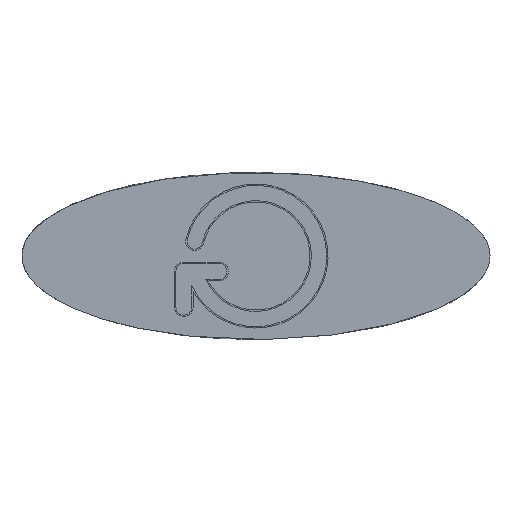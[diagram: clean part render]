
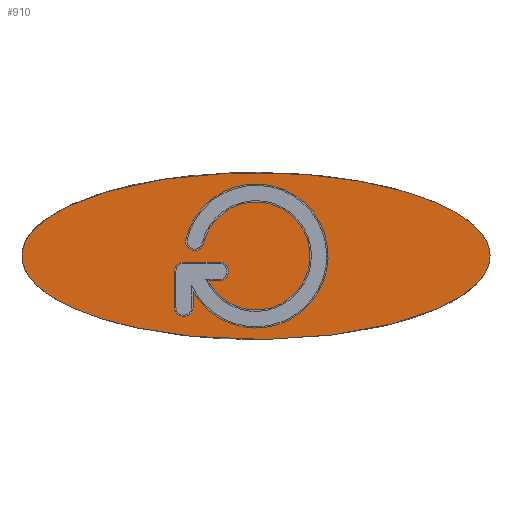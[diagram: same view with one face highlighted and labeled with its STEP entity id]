
A CAD part, front view. The second image highlights one B-rep face of the part: STEP entity #910.
In plain terms, the highlighted planar face has unit normal (0, -1, 0).
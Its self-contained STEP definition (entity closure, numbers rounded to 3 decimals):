
#17=ELLIPSE('',#965,35.,12.5);
#20=FACE_BOUND('',#126,.T.);
#29=PLANE('',#997);
#72=FACE_OUTER_BOUND('',#125,.T.);
#125=EDGE_LOOP('',(#706));
#126=EDGE_LOOP('',(#707,#708,#709,#710,#711,#712,#713,#714,#715,#716,#717,
#718,#719,#720));
#154=CIRCLE('',#968,1.347);
#156=CIRCLE('',#972,1.347);
#158=CIRCLE('',#976,1.347);
#160=CIRCLE('',#980,10.778);
#162=CIRCLE('',#983,1.35);
#164=CIRCLE('',#986,8.084);
#166=CIRCLE('',#990,1.347);
#168=CIRCLE('',#994,1.347);
#233=LINE('',#2420,#298);
#238=LINE('',#2434,#303);
#242=LINE('',#2446,#307);
#246=LINE('',#2458,#311);
#252=LINE('',#2482,#317);
#256=LINE('',#2494,#321);
#298=VECTOR('',#1089,10.);
#303=VECTOR('',#1102,10.);
#307=VECTOR('',#1114,10.);
#311=VECTOR('',#1126,10.);
#317=VECTOR('',#1152,10.);
#321=VECTOR('',#1164,10.);
#380=VERTEX_POINT('',#2414);
#381=VERTEX_POINT('',#2418);
#382=VERTEX_POINT('',#2419);
#385=VERTEX_POINT('',#2427);
#387=VERTEX_POINT('',#2433);
#389=VERTEX_POINT('',#2439);
#391=VERTEX_POINT('',#2445);
#393=VERTEX_POINT('',#2451);
#395=VERTEX_POINT('',#2457);
#397=VERTEX_POINT('',#2463);
#399=VERTEX_POINT('',#2469);
#401=VERTEX_POINT('',#2475);
#403=VERTEX_POINT('',#2481);
#405=VERTEX_POINT('',#2487);
#407=VERTEX_POINT('',#2493);
#482=EDGE_CURVE('',#380,#380,#17,.T.);
#484=EDGE_CURVE('',#381,#382,#233,.T.);
#488=EDGE_CURVE('',#385,#381,#154,.T.);
#491=EDGE_CURVE('',#387,#385,#238,.T.);
#494=EDGE_CURVE('',#389,#387,#156,.T.);
#497=EDGE_CURVE('',#391,#389,#242,.T.);
#500=EDGE_CURVE('',#393,#391,#158,.T.);
#503=EDGE_CURVE('',#395,#393,#246,.T.);
#506=EDGE_CURVE('',#397,#395,#160,.T.);
#509=EDGE_CURVE('',#399,#397,#162,.T.);
#512=EDGE_CURVE('',#401,#399,#164,.T.);
#515=EDGE_CURVE('',#403,#401,#252,.T.);
#518=EDGE_CURVE('',#405,#403,#166,.T.);
#521=EDGE_CURVE('',#407,#405,#256,.T.);
#524=EDGE_CURVE('',#382,#407,#168,.T.);
#706=ORIENTED_EDGE('',*,*,#482,.T.);
#707=ORIENTED_EDGE('',*,*,#484,.T.);
#708=ORIENTED_EDGE('',*,*,#524,.T.);
#709=ORIENTED_EDGE('',*,*,#521,.T.);
#710=ORIENTED_EDGE('',*,*,#518,.T.);
#711=ORIENTED_EDGE('',*,*,#515,.T.);
#712=ORIENTED_EDGE('',*,*,#512,.T.);
#713=ORIENTED_EDGE('',*,*,#509,.T.);
#714=ORIENTED_EDGE('',*,*,#506,.T.);
#715=ORIENTED_EDGE('',*,*,#503,.T.);
#716=ORIENTED_EDGE('',*,*,#500,.T.);
#717=ORIENTED_EDGE('',*,*,#497,.T.);
#718=ORIENTED_EDGE('',*,*,#494,.T.);
#719=ORIENTED_EDGE('',*,*,#491,.T.);
#720=ORIENTED_EDGE('',*,*,#488,.T.);
#910=ADVANCED_FACE('',(#72,#20),#29,.T.);
#965=AXIS2_PLACEMENT_3D('',#2415,#1084,#1085);
#968=AXIS2_PLACEMENT_3D('',#2428,#1095,#1096);
#972=AXIS2_PLACEMENT_3D('',#2440,#1107,#1108);
#976=AXIS2_PLACEMENT_3D('',#2452,#1119,#1120);
#980=AXIS2_PLACEMENT_3D('',#2464,#1131,#1132);
#983=AXIS2_PLACEMENT_3D('',#2470,#1138,#1139);
#986=AXIS2_PLACEMENT_3D('',#2476,#1145,#1146);
#990=AXIS2_PLACEMENT_3D('',#2488,#1157,#1158);
#994=AXIS2_PLACEMENT_3D('',#2499,#1169,#1170);
#997=AXIS2_PLACEMENT_3D('',#2502,#1175,#1176);
#1084=DIRECTION('center_axis',(0.,-1.,0.));
#1085=DIRECTION('ref_axis',(-1.,0.,0.));
#1089=DIRECTION('',(1.,0.,0.));
#1095=DIRECTION('center_axis',(0.,1.,0.));
#1096=DIRECTION('ref_axis',(0.,0.,1.));
#1102=DIRECTION('',(0.,0.,1.));
#1107=DIRECTION('center_axis',(0.,1.,0.));
#1108=DIRECTION('ref_axis',(-1.,0.,0.));
#1114=DIRECTION('',(-1.,0.,0.));
#1119=DIRECTION('center_axis',(0.,1.,0.));
#1120=DIRECTION('ref_axis',(0.,0.,-1.));
#1126=DIRECTION('',(0.,0.,-1.));
#1131=DIRECTION('center_axis',(0.,1.,0.));
#1132=DIRECTION('ref_axis',(1.,0.,0.));
#1138=DIRECTION('center_axis',(0.,1.,0.));
#1139=DIRECTION('ref_axis',(1.,0.,0.));
#1145=DIRECTION('center_axis',(0.,-1.,0.));
#1146=DIRECTION('ref_axis',(1.,0.,0.));
#1152=DIRECTION('',(-1.,0.,0.));
#1157=DIRECTION('center_axis',(0.,1.,0.));
#1158=DIRECTION('ref_axis',(0.,0.,-1.));
#1164=DIRECTION('',(0.,0.,-1.));
#1169=DIRECTION('center_axis',(0.,1.,0.));
#1170=DIRECTION('ref_axis',(1.,0.,0.));
#1175=DIRECTION('center_axis',(0.,-1.,0.));
#1176=DIRECTION('ref_axis',(1.,0.,0.));
#2414=CARTESIAN_POINT('',(35.,-10.,0.));
#2415=CARTESIAN_POINT('Origin',(0.,-10.,0.));
#2418=CARTESIAN_POINT('',(-10.829,-10.,-0.906));
#2419=CARTESIAN_POINT('',(-5.5,-10.,-0.906));
#2420=CARTESIAN_POINT('',(-5.414,-10.,-0.906));
#2427=CARTESIAN_POINT('',(-12.176,-10.,-2.253));
#2428=CARTESIAN_POINT('Origin',(-10.829,-10.,-2.253));
#2433=CARTESIAN_POINT('',(-12.176,-10.,-7.694));
#2434=CARTESIAN_POINT('',(-12.176,-10.,-3.847));
#2439=CARTESIAN_POINT('',(-10.829,-10.,-9.042));
#2440=CARTESIAN_POINT('Origin',(-10.829,-10.,-7.694));
#2445=CARTESIAN_POINT('',(-10.754,-10.,-9.042));
#2446=CARTESIAN_POINT('',(-5.377,-10.,-9.042));
#2451=CARTESIAN_POINT('',(-9.407,-10.,-7.694));
#2452=CARTESIAN_POINT('Origin',(-10.754,-10.,-7.694));
#2457=CARTESIAN_POINT('',(-9.407,-10.,-5.262));
#2458=CARTESIAN_POINT('',(-9.407,-10.,-2.631));
#2463=CARTESIAN_POINT('',(-10.484,-10.,2.501));
#2464=CARTESIAN_POINT('Origin',(0.,-10.,0.));
#2469=CARTESIAN_POINT('',(-7.888,-10.,1.77));
#2470=CARTESIAN_POINT('Origin',(-9.171,-10.,2.188));
#2475=CARTESIAN_POINT('',(-7.182,-10.,-3.711));
#2476=CARTESIAN_POINT('Origin',(0.,-10.,0.));
#2481=CARTESIAN_POINT('',(-5.5,-10.,-3.711));
#2482=CARTESIAN_POINT('',(-2.75,-10.,-3.711));
#2487=CARTESIAN_POINT('',(-4.152,-10.,-2.363));
#2488=CARTESIAN_POINT('Origin',(-5.5,-10.,-2.363));
#2493=CARTESIAN_POINT('',(-4.152,-10.,-2.253));
#2494=CARTESIAN_POINT('',(-4.152,-10.,-1.127));
#2499=CARTESIAN_POINT('Origin',(-5.5,-10.,-2.253));
#2502=CARTESIAN_POINT('Origin',(0.,-10.,0.));
